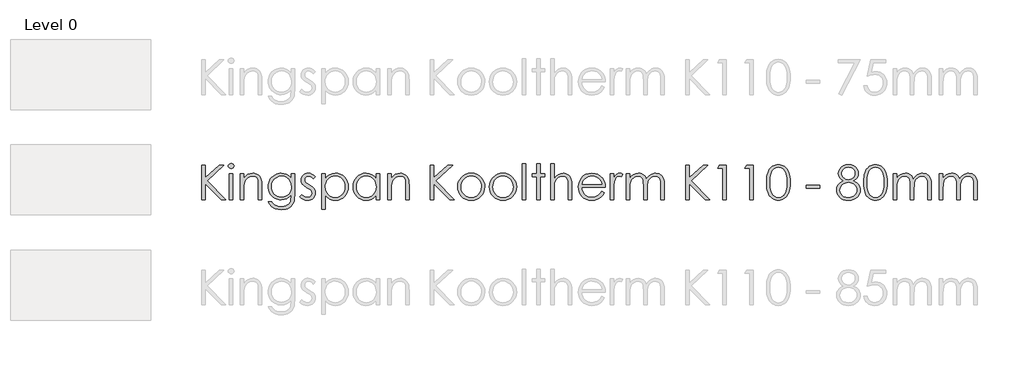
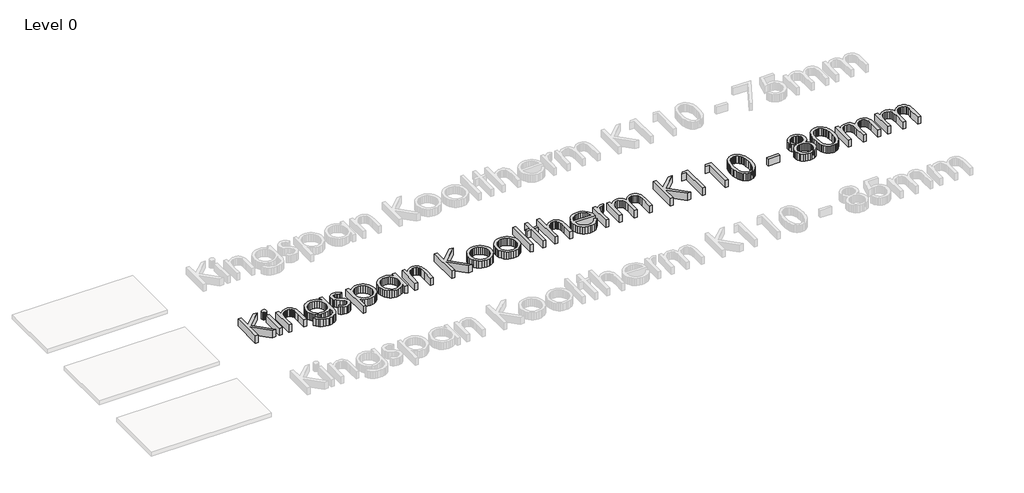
# One storey, part 6 of 9: 1 proxy.
"""IFC4 building model written with IfcOpenShell, lengths in millimetres."""

from ifc_helpers import new_model, si_unit, origin, origin_with_axes, place, context, project, spatial, polyline, outline, extrude, element, save

model = new_model("IFC4")

# Units and contexts
model_context = context("Model", 3, world=origin())
ifc_project = project(units=[si_unit("LENGTHUNIT", "METRE", prefix="MILLI")], contexts=[model_context])

# Site, building, storey
site = spatial("IfcSite", under=ifc_project)
building = spatial("IfcBuilding", under=site)
storey = spatial("IfcBuildingStorey", under=building, Name="Level 0", Elevation=0.0)

# Proxy
placement = place(None, origin())
element("IfcBuildingElementProxy", 1, Name="600mm KI_CenturyGothic", ObjectType="600mm KI_CenturyGothic", at=placement, inside=storey, context=model_context, shape_type="SweptSolid", body=[
    extrude(outline(polyline([(-3852.2663848, 500.8965983), (-3792.944575, 500.8965983), (-3792.944575, 281.683973), (-3555.1938841, 500.8965983), (-3471.6181051, 500.8965983), (-3760.9664119, 233.9484541), (-3441.9572002, -92.3214999), (-3520.8984627, -92.3214999), (-3792.944575, 185.9039675), (-3792.944575, -92.3214999), (-3852.2663848, -92.3214999), (-3852.2663848, 500.8965983)])), origin_with_axes(), (0.0, 0.0, 1.0), 150.0),
    extrude(outline(polyline([(-3348.1854852, 530.5575033), (-3329.145347, 527.2747208), (-3313.1176445, 517.4263735), (-3302.226531, 502.9821307), (-3298.5961598, 485.911662), (-3302.226531, 469.0729191), (-3313.1176445, 454.7059183), (-3329.145347, 444.857571), (-3348.1854852, 441.5747885), (-3366.9938975, 444.857571), (-3382.9443581, 454.7059183), (-3393.8354717, 469.0729191), (-3397.4658428, 485.911662), (-3393.8354717, 502.9821307), (-3382.9443581, 517.4263735), (-3366.9938975, 527.2747208), (-3348.1854852, 530.5575033)])), origin_with_axes(), (0.0, 0.0, 1.0), 150.0),
    extrude(outline(polyline([(-3377.6919062, 352.5920738), (-3318.3700964, 352.5920738), (-3318.3700964, -92.3214999), (-3377.6919062, -92.3214999), (-3377.6919062, 352.5920738)])), origin_with_axes(), (0.0, 0.0, 1.0), 150.0),
    extrude(outline(polyline([(-3189.8395084, 352.5920738), (-3130.5176986, 352.5920738), (-3130.5176986, 273.4963274), (-3096.9946967, 313.0055796), (-3060.0730495, 340.696815), (-3019.7141359, 357.0334853), (-2975.879335, 362.4790421), (-2953.4357238, 360.9004099), (-2932.2955704, 356.1645135), (-2912.4588747, 348.2713528), (-2893.9256368, 337.2209277), (-2877.212412, 323.4960006), (-2862.835756, 307.5793333), (-2841.0921499, 269.1707787), (-2833.6238199, 244.7912914), (-2828.2892984, 214.4448643), (-2824.0216812, 135.8511905), (-2824.0216812, -92.3214999), (-2883.343491, -92.3214999), (-2883.343491, 120.8662542), (-2883.343491, 223.907002), (-2884.7290183, 244.7043943), (-2889.8125035, 262.7596977), (-2898.2849788, 278.0729123), (-2910.1464442, 290.644038), (-2924.7403432, 300.4441091), (-2941.4101193, 307.4441599), (-2980.977303, 313.0442006), (-3005.3471351, 310.8862539), (-3028.4038541, 304.4124138), (-3050.1474602, 293.6226803), (-3070.5779533, 278.5170534), (-3088.6622225, 260.2348518), (-3103.3671568, 239.915394), (-3114.6927562, 217.55868), (-3122.6390208, 193.1647099), (-3128.5480292, 146.0857475), (-3130.5176986, 71.5858965), (-3130.5176986, -92.3214999), (-3189.8395084, -92.3214999), (-3189.8395084, 352.5920738)])), origin_with_axes(), (0.0, 0.0, 1.0), 150.0),
    extrude(outline(polyline([(-2319.7862977, 352.5920738), (-2260.4644879, 352.5920738), (-2260.4644879, 1.604699), (-2264.5196897, -78.6496765), (-2269.588692, -109.4499001), (-2276.6852953, -134.0321474), (-2289.9371156, -162.6454585), (-2307.2924139, -187.7732271), (-2328.7511904, -209.4154531), (-2354.3134448, -227.5721366), (-2383.3226209, -241.9343098), (-2415.122162, -252.1930049), (-2449.7120682, -258.348222), (-2487.0923395, -260.3999611), (-2541.0458345, -256.3833802), (-2589.206184, -244.3336376), (-2630.260275, -225.5059147), (-2662.8949946, -201.1553932), (-2690.2000204, -167.8061856), (-2715.2650299, -121.9824048), (-2655.94322, -121.9824048), (-2642.4355358, -143.151524), (-2627.0933555, -161.3951046), (-2609.9166791, -176.7131468), (-2590.9055067, -189.1056506), (-2569.7894914, -198.6691682), (-2546.2982864, -205.5002523), (-2492.1903075, -210.9651195), (-2438.5071593, -205.6354257), (-2415.083541, -198.9733084), (-2393.93856, -189.6463441), (-2359.6624492, -165.6047903), (-2336.8567664, -136.1176798), (-2329.3884364, -117.4782342), (-2324.0539149, -93.7697863), (-2319.7862977, -31.1458835), (-2319.7862977, -8.4367532), (-2354.757586, -44.2190818), (-2396.6420279, -70.6165148), (-2443.392712, -86.8952536), (-2492.9627269, -92.3214999), (-2522.4063889, -90.4242447), (-2550.9521133, -84.7324793), (-2578.5999001, -75.2462036), (-2605.3497494, -61.9654175), (-2630.1540674, -45.4742634), (-2651.9652601, -26.3568832), (-2670.7833277, -4.6132772), (-2686.6082702, 19.7565549), (-2699.1456025, 46.0719183), (-2708.1008399, 73.6521184), (-2713.4739824, 102.4971553), (-2715.2650299, 132.607029), (-2713.3967404, 162.8955247), (-2707.7918722, 192.1219437), (-2698.4504251, 220.286286), (-2685.3723991, 247.3885517), (-2668.9971079, 272.5742517), (-2649.7638648, 294.9888971), (-2627.67267, 314.632488), (-2602.7235235, 331.5050242), (-2575.9833294, 345.056157), (-2548.5189922, 354.7355376), (-2520.3305117, 360.543166), (-2491.4178881, 362.4790421), (-2444.5320306, 357.5355579), (-2400.8903346, 342.7051055), (-2359.6045177, 316.1338782), (-2319.7862977, 275.9680694), (-2319.7862977, 352.5920738)]), holes=[polyline([(-2484.1571458, 313.0442006), (-2529.0154023, 307.0193293), (-2570.5908765, 288.9447153), (-2606.2187212, 260.2300242), (-2633.2340897, 222.2849212), (-2650.2659375, 178.0059792), (-2655.94322, 130.2897708), (-2653.0080263, 94.3770964), (-2644.2024452, 61.7182387), (-2629.5264766, 32.3131977), (-2608.9801206, 6.1619734), (-2583.7606272, -15.296803), (-2555.0652466, -30.6245004), (-2522.8939786, -39.8211189), (-2487.2468234, -42.8866584), (-2451.3244937, -39.845257), (-2419.1001219, -30.7210528), (-2390.573708, -15.5140459), (-2365.7452519, 5.7757637), (-2345.6382095, 32.0187128), (-2331.2760363, 62.0851379), (-2322.6587323, 95.975039), (-2319.7862977, 133.6884162), (-2325.0773706, 182.3894593), (-2340.9505892, 225.6063246), (-2366.4983608, 261.8327944), (-2400.8130926, 289.5626508), (-2440.9982119, 307.1738131), (-2484.1571458, 313.0442006)])]), origin_with_axes(), (0.0, 0.0, 1.0), 150.0),
    extrude(outline(polyline([(-1904.5336289, 301.3034257), (-1940.9918246, 263.609359), (-1962.9575012, 285.2371022), (-1984.6721416, 300.6854902), (-2006.1357456, 309.954523), (-2027.3483133, 313.0442006), (-2052.181597, 308.3710632), (-2073.2300256, 294.3516511), (-2087.5970264, 274.1142629), (-2092.3860267, 250.787197), (-2088.4466878, 229.2366958), (-2076.628671, 208.7675817), (-2052.0657341, 186.599145), (-2010.2006027, 160.877579), (-1958.3326401, 128.0111336), (-1939.8428507, 112.1861912), (-1926.315856, 96.7667689), (-1909.9791857, 64.0934284), (-1904.5336289, 27.5579908), (-1906.9474396, 1.4115941), (-1914.1888714, -22.6492701), (-1926.2579245, -44.624602), (-1943.1545989, -64.5144015), (-1963.6719892, -81.0055557), (-1986.6031901, -92.7849515), (-2011.9482016, -99.852589), (-2039.7070237, -102.2084682), (-2077.4397114, -98.3270607), (-2113.3958344, -86.6828383), (-2145.4512394, -68.2027042), (-2171.4817731, -43.8135617), (-2135.7959969, -3.3387852), (-2114.0041146, -24.9665283), (-2091.5749863, -40.4149163), (-2068.5086121, -49.6839491), (-2044.8049918, -52.7736267), (-2013.637869, -47.1349651), (-1987.4914724, -30.2189802), (-1969.7644472, -5.6560434), (-1963.8554388, 22.9234744), (-1967.7561567, 46.7139919), (-1979.4583106, 67.7237995), (-2005.0253927, 89.4287846), (-2050.2119275, 116.2317378), (-2099.762632, 146.8967879), (-2117.441381, 162.0555186), (-2130.3890611, 177.0983864), (-2146.3781427, 209.2310334), (-2151.7078365, 245.689229), (-2149.5305794, 269.7356104), (-2142.9988078, 291.6674937), (-2132.1125219, 311.4848789), (-2116.8717217, 329.187766), (-2098.309518, 343.7526993), (-2077.4590218, 354.1562231), (-2054.3202332, 360.3983373), (-2028.8931521, 362.4790421), (-1997.9481, 358.6555661), (-1966.9064954, 347.185138), (-1935.7683384, 328.0677579), (-1904.5336289, 301.3034257)])), origin_with_axes(), (0.0, 0.0, 1.0), 150.0),
    extrude(outline(polyline([(-1795.7769776, 352.5920738), (-1736.4551678, 352.5920738), (-1736.4551678, 271.4880369), (-1700.9238754, 311.7310876), (-1660.4490989, 340.0788795), (-1614.9922173, 356.8790014), (-1564.5146096, 362.4790421), (-1520.0618732, 358.2403906), (-1478.9305402, 345.5244363), (-1441.1206107, 324.331179), (-1406.6320845, 294.6606189), (-1377.9077381, 259.0231189), (-1357.3903478, 219.929042), (-1345.0799137, 177.3783884), (-1340.9764356, 131.371158), (-1345.0412927, 84.4708176), (-1357.235864, 41.2491246), (-1377.5601494, 1.706079), (-1406.014149, -34.1583192), (-1440.2130179, -63.9302594), (-1477.7719111, -85.1959309), (-1518.6908288, -97.9553339), (-1562.9697708, -102.2084682), (-1612.6170277, -96.743601), (-1658.0545988, -80.3489992), (-1699.3211052, -53.1019049), (-1736.4551678, -15.07956), (-1736.4551678, -250.5129928), (-1795.7769776, -250.5129928), (-1795.7769776, 352.5920738)]), holes=[polyline([(-1568.5311905, 313.0442006), (-1602.5852307, 309.7469353), (-1633.8392507, 299.8551393), (-1662.2932503, 283.3688128), (-1687.9472295, 260.2879556), (-1709.1694525, 232.3022353), (-1724.3281832, 201.1013192), (-1733.4234216, 166.6852074), (-1736.4551678, 129.0538998), (-1731.048232, 80.1983728), (-1714.8274246, 36.5180558), (-1688.5265441, -0.3263495), (-1652.8793888, -28.6741414), (-1611.4390881, -46.7487554), (-1567.7587711, -52.7736267), (-1525.0632888, -46.7101344), (-1485.0326535, -28.5196576), (-1450.2544701, 0.5812433), (-1423.3163435, 39.3760076), (-1406.05277, 84.0411593), (-1400.2982454, 130.7532225), (-1405.9948385, 177.6970114), (-1423.0846177, 222.1304373), (-1449.8103289, 260.4810605), (-1484.414718, 289.1764411), (-1524.7157001, 307.0772607), (-1568.5311905, 313.0442006)])]), origin_with_axes(), (0.0, 0.0, 1.0), 150.0),
    extrude(outline(polyline([(-807.0801472, 352.5920738), (-807.0801472, -92.3214999), (-866.401957, -92.3214999), (-866.401957, -16.4699149), (-903.4780882, -54.3184655), (-944.8797679, -81.0441767), (-990.4525125, -96.9173953), (-1040.0418379, -102.2084682), (-1084.3159523, -97.9553339), (-1125.2203871, -85.1959309), (-1162.7551422, -63.9302594), (-1196.9202178, -34.1583192), (-1225.340424, 1.706079), (-1245.6405713, 41.2491246), (-1257.8206597, 84.4708176), (-1261.8806892, 131.371158), (-1257.7820388, 177.3783884), (-1245.4860875, 219.929042), (-1224.9928353, 259.0231189), (-1196.3022822, 294.6606189), (-1161.8475494, 324.331179), (-1124.061758, 345.5244363), (-1082.9449079, 358.2403906), (-1038.4969991, 362.4790421), (-987.7490446, 356.8790014), (-942.0990581, 340.0788795), (-921.2051134, 327.3918909), (-901.6242816, 311.7310876), (-866.401957, 271.4880369), (-866.401957, 352.5920738), (-807.0801472, 352.5920738)]), holes=[polyline([(-1034.3259343, 313.0442006), (-1078.1414247, 307.0772607), (-1118.4424068, 289.1764411), (-1153.0467959, 260.4810605), (-1179.7725071, 222.1304373), (-1196.8622863, 177.6970114), (-1202.5588794, 130.7532225), (-1196.8043548, 84.0411593), (-1179.5407813, 39.3760076), (-1152.6026548, 0.5812433), (-1117.8244713, -28.5196576), (-1077.6779731, -46.7101344), (-1034.6349021, -52.7736267), (-991.0125165, -46.7487554), (-949.7460102, -28.6741414), (-914.2726493, -0.3263495), (-888.0297002, 36.5180558), (-871.8088928, 80.1983728), (-866.401957, 129.0538998), (-869.4337032, 166.6852074), (-878.5289416, 201.1013192), (-893.6876723, 232.3022353), (-914.9098953, 260.2879556), (-940.5638746, 283.3688128), (-969.0178742, 299.8551393), (-1000.2718941, 309.7469353), (-1034.3259343, 313.0442006)])]), origin_with_axes(), (0.0, 0.0, 1.0), 150.0),
    extrude(outline(polyline([(-668.662591, 352.5920738), (-609.3407811, 352.5920738), (-609.3407811, 273.4963274), (-575.8177792, 313.0055796), (-538.896132, 340.696815), (-498.5372184, 357.0334853), (-454.7024175, 362.4790421), (-432.2588064, 360.9004099), (-411.1186529, 356.1645135), (-391.2819572, 348.2713528), (-372.7487193, 337.2209277), (-356.0354946, 323.4960006), (-341.6588385, 307.5793333), (-319.9152324, 269.1707787), (-312.4469024, 244.7912914), (-307.1123809, 214.4448643), (-302.8447637, 135.8511905), (-302.8447637, -92.3214999), (-362.1665735, -92.3214999), (-362.1665735, 120.8662542), (-362.1665735, 223.907002), (-363.5521008, 244.7043943), (-368.635586, 262.7596977), (-377.1080613, 278.0729123), (-388.9695267, 290.644038), (-403.5634257, 300.4441091), (-420.2332018, 307.4441599), (-459.8003855, 313.0442006), (-484.1702176, 310.8862539), (-507.2269366, 304.4124138), (-528.9705427, 293.6226803), (-549.4010358, 278.5170534), (-567.485305, 260.2348518), (-582.1902393, 239.915394), (-593.5158387, 217.55868), (-601.4621033, 193.1647099), (-607.3711117, 146.0857475), (-609.3407811, 71.5858965), (-609.3407811, -92.3214999), (-668.662591, -92.3214999), (-668.662591, 352.5920738)])), origin_with_axes(), (0.0, 0.0, 1.0), 150.0),
    extrude(outline(polyline([(62.9730635, 500.8965983), (122.2948734, 500.8965983), (122.2948734, 281.683973), (360.0455643, 500.8965983), (443.6213432, 500.8965983), (154.2730365, 233.9484541), (473.2822481, -92.3214999), (394.3409856, -92.3214999), (122.2948734, 185.9039675), (122.2948734, -92.3214999), (62.9730635, -92.3214999), (62.9730635, 500.8965983)])), origin_with_axes(), (0.0, 0.0, 1.0), 150.0),
    extrude(outline(polyline([(760.1588128, 362.4790421), (809.4681362, 357.8541809), (854.3553585, 343.9795975), (894.8204798, 320.8552917), (930.8635, 288.4812637), (957.7630055, 253.2492839), (976.9769381, 214.908316), (988.5052976, 173.45836), (992.3480841, 128.8994159), (988.283227, 84.0846079), (976.0886558, 42.1760279), (955.7643703, 3.1736759), (927.3103707, -32.9224481), (892.4742558, -63.2350819), (853.0036246, -84.8869632), (808.8984769, -97.8780919), (760.1588128, -102.2084682), (711.2839754, -97.8780919), (667.0822753, -84.8869632), (627.5537126, -63.2350819), (592.6982872, -32.9224481), (564.2442876, 3.1736759), (543.9200022, 42.1760279), (531.7254309, 84.0846079), (527.6605738, 128.8994159), (531.5033603, 173.2652551), (543.0317198, 214.5993482), (562.2456524, 252.9016951), (589.145158, 288.1722959), (625.2074886, 320.6814974), (665.7305413, 343.9023555), (710.7143161, 357.8348705), (760.1588128, 362.4790421)]), holes=[polyline([(760.004329, 313.0442006), (725.7282181, 309.6696933), (693.9624704, 299.5461716), (664.7070856, 282.6736353), (637.962064, 259.0520846), (615.6584538, 230.6415336), (599.7273037, 199.4019965), (590.1686137, 165.3334734), (586.9823836, 128.4359643), (592.7948396, 80.7004454), (610.2322075, 36.3635719), (637.5758543, -1.4270471), (673.1071466, -29.5238028), (714.6439998, -46.9611707), (760.004329, -52.7736267), (805.3646581, -46.9611707), (846.9015113, -29.5238028), (882.4328037, -1.4270471), (909.7764504, 36.3635719), (927.2138183, 80.7004454), (933.0262743, 128.4359643), (929.8255614, 165.3334734), (920.2234227, 199.4019965), (904.2198583, 230.6415336), (881.8148681, 259.0520846), (854.9974321, 282.6736353), (825.7565303, 299.5461716), (794.0921625, 309.6696933), (760.004329, 313.0442006)])]), origin_with_axes(), (0.0, 0.0, 1.0), 150.0),
    extrude(outline(polyline([(1303.9420695, 362.4790421), (1353.2513929, 357.8541809), (1398.1386152, 343.9795975), (1438.6037365, 320.8552917), (1474.6467567, 288.4812637), (1501.5462622, 253.2492839), (1520.7601948, 214.908316), (1532.2885543, 173.45836), (1536.1313408, 128.8994159), (1532.0664837, 84.0846079), (1519.8719125, 42.1760279), (1499.547627, 3.1736759), (1471.0936274, -32.9224481), (1436.2575126, -63.2350819), (1396.7868813, -84.8869632), (1352.6817336, -97.8780919), (1303.9420695, -102.2084682), (1255.0672321, -97.8780919), (1210.865532, -84.8869632), (1171.3369693, -63.2350819), (1136.4815439, -32.9224481), (1108.0275443, 3.1736759), (1087.7032589, 42.1760279), (1075.5086876, 84.0846079), (1071.4438305, 128.8994159), (1075.286617, 173.2652551), (1086.8149766, 214.5993482), (1106.0289091, 252.9016951), (1132.9284147, 288.1722959), (1168.9907453, 320.6814974), (1209.5137981, 343.9023555), (1254.4975728, 357.8348705), (1303.9420695, 362.4790421)]), holes=[polyline([(1303.7875857, 313.0442006), (1269.5114748, 309.6696933), (1237.7457271, 299.5461716), (1208.4903423, 282.6736353), (1181.7453207, 259.0520846), (1159.4417105, 230.6415336), (1143.5105604, 199.4019965), (1133.9518704, 165.3334734), (1130.7656404, 128.4359643), (1136.5780963, 80.7004454), (1154.0154643, 36.3635719), (1181.359111, -1.4270471), (1216.8904033, -29.5238028), (1258.4272565, -46.9611707), (1303.7875857, -52.7736267), (1349.1479149, -46.9611707), (1390.684768, -29.5238028), (1426.2160604, -1.4270471), (1453.5597071, 36.3635719), (1470.997075, 80.7004454), (1476.809531, 128.4359643), (1473.6088181, 165.3334734), (1464.0066795, 199.4019965), (1448.003115, 230.6415336), (1425.5981249, 259.0520846), (1398.7806889, 282.6736353), (1369.539787, 299.5461716), (1337.8754193, 309.6696933), (1303.7875857, 313.0442006)])]), origin_with_axes(), (0.0, 0.0, 1.0), 150.0),
    extrude(outline(polyline([(1635.0010238, 520.6705349), (1694.3228337, 520.6705349), (1694.3228337, -92.3214999), (1635.0010238, -92.3214999), (1635.0010238, 520.6705349)])), origin_with_axes(), (0.0, 0.0, 1.0), 150.0),
    extrude(outline(polyline([(1882.1752314, 520.6705349), (1941.4970413, 520.6705349), (1941.4970413, 352.5920738), (2020.5927877, 352.5920738), (2020.5927877, 303.1572323), (1941.4970413, 303.1572323), (1941.4970413, -92.3214999), (1882.1752314, -92.3214999), (1882.1752314, 303.1572323), (1803.079485, 303.1572323), (1803.079485, 352.5920738), (1882.1752314, 352.5920738), (1882.1752314, 520.6705349)])), origin_with_axes(), (0.0, 0.0, 1.0), 150.0),
    extrude(outline(polyline([(2119.4624707, 520.6705349), (2178.7842806, 520.6705349), (2178.7842806, 271.9514886), (2212.5583188, 311.6538456), (2249.6151394, 339.9243956), (2289.9161216, 356.8403805), (2333.4226442, 362.4790421), (2355.8662553, 360.9004099), (2377.0064088, 356.1645135), (2396.8431044, 348.2713528), (2415.3763424, 337.2209277), (2432.0895671, 323.5104834), (2446.4662232, 307.6372648), (2468.2098293, 269.4025045), (2475.6781593, 245.0954316), (2481.0126808, 214.7345216), (2485.280298, 135.8511905), (2485.280298, -92.3214999), (2425.9584882, -92.3214999), (2425.9584882, 120.8662542), (2424.5681332, 185.247411), (2420.3970685, 223.907002), (2406.879729, 262.7596977), (2397.1665551, 278.0729123), (2385.4837117, 290.644038), (2371.840854, 300.4441091), (2356.2476374, 307.4441599), (2319.2101273, 313.0442006), (2296.3416854, 310.8862539), (2274.6994594, 304.4124138), (2254.2834492, 293.6226803), (2235.0936547, 278.5170534), (2218.1052556, 260.2348518), (2204.2934312, 239.915394), (2193.6581816, 217.55868), (2186.1995068, 193.1647099), (2180.6380871, 146.3174733), (2178.7842806, 71.5858965), (2178.7842806, -92.3214999), (2119.4624707, -92.3214999), (2119.4624707, 520.6705349)])), origin_with_axes(), (0.0, 0.0, 1.0), 150.0),
    extrude(outline(polyline([(2991.0605203, 55.9830247), (3038.950523, 30.8021523), (3013.3255094, -11.0822896), (2984.0315038, -44.0452875), (2950.952643, -69.1296074), (2913.9730643, -87.3780157), (2872.4941426, -98.5008551), (2825.9172528, -102.2084682), (2774.4258447, -97.7767119), (2728.8627554, -84.481443), (2689.227985, -62.3226615), (2655.5215335, -31.3003674), (2628.6220279, 5.3026569), (2609.4080954, 44.2036288), (2597.8797358, 85.4025485), (2594.0369493, 128.8994159), (2597.3197318, 169.7797126), (2607.1680791, 208.381372), (2623.5819913, 244.7043943), (2646.5614684, 278.7487793), (2682.7493173, 315.3807692), (2724.5758277, 341.5464764), (2772.0409998, 357.2459007), (2825.1448334, 362.4790421), (2879.7935059, 357.1107273), (2928.6490329, 341.0057828), (2971.7114143, 314.1642087), (3008.9806503, 276.5860049), (3030.4539096, 244.414737), (3045.9022976, 208.458614), (3055.3258143, 168.7176359), (3058.7244596, 125.1918028), (2653.3587591, 125.1918028), (2657.095338, 87.9370497), (2666.6057518, 54.1871496), (2681.8900007, 23.9421025), (2702.9480845, -2.7980916), (2728.3124066, -24.6623882), (2756.5153699, -40.2797429), (2787.5569744, -49.6501557), (2821.4372203, -52.7736267), (2854.9602222, -49.761191), (2887.5563208, -40.7238841), (2917.2944677, -26.6851615), (2942.2436143, -8.668479), (2965.725164, 17.4972281), (2991.0605203, 55.9830247)]), holes=[polyline([(2999.4026498, 174.6266443), (2984.9777175, 217.1483322), (2965.1844704, 250.1692615), (2939.0766947, 275.6977226), (2905.7081767, 295.742006), (2867.7630738, 308.7186519), (2827.9255433, 313.0442006), (2795.503239, 310.3310774), (2765.4368139, 302.191708), (2737.726268, 288.6260923), (2712.3716012, 269.6342304), (2695.8321708, 251.820308), (2681.4362043, 230.0477362), (2669.1837016, 204.316515), (2659.0746627, 174.6266443), (2999.4026498, 174.6266443)])]), origin_with_axes(), (0.0, 0.0, 1.0), 150.0),
    extrude(outline(polyline([(3137.820206, 352.5920738), (3197.1420159, 352.5920738), (3197.1420159, 288.1722959), (3222.6897875, 321.2125357), (3249.589293, 344.3271862), (3277.7632906, 357.9410781), (3307.1345382, 362.4790421), (3330.4616041, 358.694187), (3355.3335087, 347.3396219), (3325.8270877, 305.3200066), (3297.2475699, 313.0442006), (3270.8308265, 307.0965712), (3245.3409863, 289.2536831), (3223.2884125, 258.8976007), (3207.183468, 215.4103886), (3199.6523789, 157.2858288), (3197.1420159, 59.8451217), (3197.1420159, -92.3214999), (3137.820206, -92.3214999), (3137.820206, 352.5920738)])), origin_with_axes(), (0.0, 0.0, 1.0), 150.0),
    extrude(outline(polyline([(3414.6553185, 352.5920738), (3473.9771284, 352.5920738), (3473.9771284, 276.4315211), (3503.5607913, 312.9283377), (3533.9168737, 338.0705891), (3577.3268439, 356.3769288), (3622.8995884, 362.4790421), (3653.7384329, 359.331433), (3682.9165757, 349.8886059), (3708.6767627, 335.2126373), (3729.2617397, 316.365604), (3746.0425511, 290.9336953), (3760.3902414, 256.5031006), (3775.16759, 280.9018983), (3791.6925376, 302.191708), (3809.965084, 320.3725296), (3829.9852293, 335.4443631), (3851.2798666, 347.2720352), (3873.375889, 355.7203723), (3896.2732965, 360.7893747), (3919.9720892, 362.4790421), (3962.3006723, 356.6665861), (3981.4952943, 349.4010161), (3999.3768034, 339.2292182), (4015.4914031, 326.46016), (4029.385297, 311.4028093), (4050.5109676, 274.4232306), (4057.8103309, 251.0478886), (4063.0241619, 222.4780261), (4067.1952266, 149.7547397), (4067.1952266, -92.3214999), (4007.8734168, -92.3214999), (4007.8734168, 153.3078689), (4005.4209852, 214.4255538), (3998.0636904, 252.8727294), (3984.7587663, 277.3391139), (3964.4634466, 296.5144254), (3938.3942919, 308.9117568), (3907.7678627, 313.0442006), (3888.1194443, 311.4945341), (3869.3399976, 306.8455349), (3834.3880198, 288.2495379), (3805.6540182, 259.3031209), (3785.8800816, 222.0531954), (3779.1889985, 197.8957787), (3774.4096535, 166.8252084), (3770.5861775, 83.9446069), (3770.5861775, -92.3214999), (3711.2643677, -92.3214999), (3711.2643677, 138.0139648), (3708.850557, 206.469634), (3701.6091252, 248.7016647), (3688.3621325, 274.9446137), (3667.9316394, 295.4330383), (3641.6114484, 308.64141), (3610.6953619, 313.0442006), (3573.7544042, 307.0000188), (3539.2465676, 288.8674734), (3510.2808401, 260.500371), (3489.9662099, 223.7525181), (3477.9743988, 171.9231764), (3473.9771284, 98.3116077), (3473.9771284, -92.3214999), (3414.6553185, -92.3214999), (3414.6553185, 352.5920738)])), origin_with_axes(), (0.0, 0.0, 1.0), 150.0),
    extrude(outline(polyline([(4433.0130538, 500.8965983), (4492.3348637, 500.8965983), (4492.3348637, 281.683973), (4730.0855546, 500.8965983), (4813.6613335, 500.8965983), (4524.3130268, 233.9484541), (4843.3222385, -92.3214999), (4764.3809759, -92.3214999), (4492.3348637, 185.9039675), (4492.3348637, -92.3214999), (4433.0130538, -92.3214999), (4433.0130538, 500.8965983)])), origin_with_axes(), (0.0, 0.0, 1.0), 150.0),
    extrude(outline(polyline([(5010.6282802, 500.8965983), (5125.1008351, 500.8965983), (5125.1008351, -92.3214999), (5065.7790253, -92.3214999), (5065.7790253, 451.4617568), (4976.7963106, 451.4617568), (5010.6282802, 500.8965983)])), origin_with_axes(), (0.0, 0.0, 1.0), 150.0),
    extrude(outline(polyline([(5475.3157905, 500.8965983), (5589.7883454, 500.8965983), (5589.7883454, -92.3214999), (5530.4665356, -92.3214999), (5530.4665356, 451.4617568), (5441.4838208, 451.4617568), (5475.3157905, 500.8965983)])), origin_with_axes(), (0.0, 0.0, 1.0), 150.0),
    extrude(outline(polyline([(5817.1886164, 204.1330653), (5818.7672485, 258.5644948), (5823.503145, 306.4593252), (5831.3963057, 347.8175564), (5842.4467307, 382.6391884), (5856.374418, 412.2807828), (5872.8993655, 438.0989012), (5892.0215733, 460.0935436), (5913.7410412, 478.26471), (5937.4350063, 492.4917098), (5962.4807053, 502.6538525), (5988.8781382, 508.7511381), (6016.6273051, 510.7835666), (6044.8302684, 508.7366552), (6071.6621873, 502.595921), (6097.1230617, 492.361364), (6121.2128917, 478.0329841), (6143.3958113, 459.6156091), (6163.1359546, 437.1140665), (6180.4333215, 410.5283563), (6195.2879121, 379.8584786), (6207.2169642, 344.3416691), (6215.7377157, 303.2151637), (6220.8501666, 256.4789625), (6222.5543169, 204.1330653), (6220.8743047, 151.9464797), (6215.8342681, 105.3792452), (6207.4342071, 64.4313618), (6195.6741218, 29.1028296), (6180.9643599, -1.4222195), (6163.7152692, -27.9596535), (6143.9268497, -50.5094723), (6121.5991014, -69.071676), (6097.3403047, -83.5690226), (6071.7587397, -93.9242701), (6044.8544066, -100.1374187), (6016.6273051, -102.2084682), (5988.9022764, -100.2001778), (5962.5772577, -94.1753064), (5937.6522492, -84.1338543), (5914.1272509, -70.0758212), (5892.5526116, -52.0398282), (5873.4786801, -30.0644964), (5856.9054564, -4.1498255), (5842.8329404, 25.7041842), (5831.6135487, 60.7237487), (5823.5996974, 102.1350837), (5818.7913866, 149.9381893), (5817.1886164, 204.1330653)]), holes=[polyline([(5876.5104262, 204.2875492), (5880.8939063, 115.961391), (5886.3732564, 80.9804475), (5894.0443466, 52.1209277), (5903.8589006, 27.8814414), (5915.7686422, 6.7605985), (5929.7735714, -11.2416011), (5945.8736882, -26.1251574), (5981.1732547, -46.1115094), (5999.5761469, -51.1080973), (6018.4811117, -52.7736267), (6037.4729737, -51.1418907), (6055.8275896, -46.2466828), (6090.6250835, -26.665851), (6106.3824393, -11.9898824), (6120.1315046, 5.9302476), (6131.8722794, 27.0945392), (6141.6047639, 51.5029922), (6151.0669015, 84.8618549), (6157.8255712, 121.4455687), (6163.232507, 204.2875492), (6158.4048858, 285.8936587), (6152.3703592, 320.5849449), (6143.9220221, 351.2017189), (6133.3398763, 377.864671), (6120.903924, 400.6944918), (6106.6141651, 419.6911814), (6090.4705997, 434.8547397), (6055.402759, 454.7252288), (6037.1736612, 459.692851), (6018.4811117, 461.3487251), (5999.4651116, 459.692851), (5981.0380814, 454.7252288), (5945.9509302, 434.8547397), (5930.0052972, 420.0435978), (5916.0776099, 402.1041572), (5904.1678683, 381.0364181), (5894.2760724, 356.8403805), (5886.5036022, 327.9856883), (5880.9518378, 292.9419857), (5876.5104262, 204.2875492)])]), origin_with_axes(), (0.0, 0.0, 1.0), 150.0),
    extrude(outline(polyline([(6499.3894294, 154.8527077), (6726.7897004, 154.8527077), (6726.7897004, 105.4178662), (6499.3894294, 105.4178662), (6499.3894294, 154.8527077)])), origin_with_axes(), (0.0, 0.0, 1.0), 150.0),
    extrude(outline(polyline([(7304.095959, 231.7856798), (7356.1956474, 200.3868313), (7376.0178602, 183.1522234), (7391.6883188, 164.8941599), (7403.5835775, 145.4774673), (7412.0801909, 124.7669721), (7417.1781589, 102.7626745), (7418.8774816, 79.4645744), (7416.0581508, 46.7815786), (7407.6001584, 16.0875627), (7393.5035044, -12.6174732), (7373.7681887, -39.3335291), (7343.0741729, -66.841315), (7306.4518381, -86.4897334), (7263.9011845, -98.2787845), (7215.422212, -102.2084682), (7168.7584251, -98.756719), (7128.100199, -88.4014714), (7093.4475337, -71.1427255), (7064.8004292, -46.9804812), (7042.3616457, -18.6664826), (7026.3339432, 11.0475261), (7016.7173217, 42.161545), (7013.5117812, 74.6755741), (7015.2255867, 98.4033325), (7020.3670033, 120.9241856), (7028.936031, 142.2381334), (7040.9326698, 162.3451759), (7056.8300266, 181.3128997), (7077.1012082, 199.2088917), (7101.7462146, 216.0331517), (7130.7650459, 231.7856798), (7092.3951123, 256.7348264), (7065.0321551, 287.0909088), (7048.6375533, 321.3477091), (7043.1726861, 357.9990096), (7048.9658316, 395.7123867), (7066.345268, 432.5374816), (7093.9592615, 465.0563382), (7130.4560781, 489.8510009), (7173.055008, 505.5504252), (7218.9753412, 510.7835666), (7263.7177349, 505.5118042), (7304.9456203, 489.6965171), (7340.1486344, 464.8246124), (7366.8164141, 432.3829977), (7383.6165361, 395.2489351), (7389.2165767, 356.2996869), (7383.9061933, 318.7601041), (7367.9750432, 285.54607), (7341.3845054, 256.5803425), (7304.095959, 231.7856798)]), holes=[polyline([(7219.284309, 204.2875492), (7189.4158164, 201.7771862), (7162.067342, 194.246097), (7137.238886, 181.6942818), (7114.9304482, 164.1217405), (7096.5130732, 143.2181405), (7083.3578053, 120.6731493), (7075.4646446, 96.4867669), (7072.833591, 70.6589932), (7077.332934, 38.5456567), (7090.830963, 8.3247478), (7112.4007747, -17.6092335), (7141.1154658, -36.8617871), (7175.9902017, -48.7956668), (7216.0401475, -52.7736267), (7247.2603741, -50.3549884), (7275.110921, -43.0990737), (7299.5917884, -31.0058825), (7320.702976, -14.0754148), (7337.7010304, 6.0895591), (7349.8424979, 27.886269), (7357.1273783, 51.3147149), (7359.5556718, 76.3748968), (7356.9873773, 100.7061079), (7349.2824938, 123.646964), (7336.4410213, 145.1974652), (7318.4629598, 165.3576115), (7296.8545271, 182.3894593), (7273.1219411, 194.5550648), (7247.2652017, 201.8544281), (7219.284309, 204.2875492)]), polyline([(7216.0401475, 461.3487251), (7192.5344597, 459.4900909), (7171.14327, 453.9141884), (7151.8665783, 444.6210175), (7134.7043848, 431.6105783), (7120.6125584, 416.0221893), (7110.5469681, 398.9951692), (7104.507614, 380.5295179), (7102.4944959, 360.6252355), (7104.6620978, 340.7161255), (7111.1649037, 321.7725398), (7122.0029133, 303.7944783), (7137.1761269, 286.781941), (7155.236258, 272.3183878), (7174.7350202, 261.9872783), (7195.6724135, 255.7886126), (7218.048438, 253.7223907), (7246.7631291, 257.4686248), (7273.8943605, 268.7073271), (7297.3565997, 286.4536628), (7315.0643144, 309.7227972), (7326.1871538, 335.7726414), (7329.8947669, 361.8611066), (7328.0699261, 380.0322729), (7322.5954036, 397.4696408), (7313.4711994, 414.1732103), (7300.6973136, 430.1429814), (7284.4571958, 443.7954943), (7264.9342955, 453.5472892), (7242.1286127, 459.3983661), (7216.0401475, 461.3487251)])]), origin_with_axes(), (0.0, 0.0, 1.0), 150.0),
    extrude(outline(polyline([(7478.1992914, 204.1330653), (7479.7779236, 258.5644948), (7484.51382, 306.4593252), (7492.4069808, 347.8175564), (7503.4574058, 382.6391884), (7517.3850931, 412.2807828), (7533.9100406, 438.0989012), (7553.0322483, 460.0935436), (7574.7517163, 478.26471), (7598.4456813, 492.4917098), (7623.4913804, 502.6538525), (7649.8888133, 508.7511381), (7677.6379802, 510.7835666), (7705.8409435, 508.7366552), (7732.6728624, 502.595921), (7758.1337368, 492.361364), (7782.2235668, 478.0329841), (7804.4064864, 459.6156091), (7824.1466297, 437.1140665), (7841.4439966, 410.5283563), (7856.2985871, 379.8584786), (7868.2276392, 344.3416691), (7876.7483907, 303.2151637), (7881.8608416, 256.4789625), (7883.5649919, 204.1330653), (7881.8849797, 151.9464797), (7876.8449431, 105.3792452), (7868.4448822, 64.4313618), (7856.6847968, 29.1028296), (7841.9750349, -1.4222195), (7824.7259442, -27.9596535), (7804.9375247, -50.5094723), (7782.6097765, -69.071676), (7758.3509797, -83.5690226), (7732.7694148, -93.9242701), (7705.8650816, -100.1374187), (7677.6379802, -102.2084682), (7649.9129514, -100.2001778), (7623.5879328, -94.1753064), (7598.6629243, -84.1338543), (7575.137926, -70.0758212), (7553.5632867, -52.0398282), (7534.4893551, -30.0644964), (7517.9161314, -4.1498255), (7503.8436155, 25.7041842), (7492.6242237, 60.7237487), (7484.6103725, 102.1350837), (7479.8020617, 149.9381893), (7478.1992914, 204.1330653)]), holes=[polyline([(7537.5211013, 204.2875492), (7541.9045814, 115.961391), (7547.3839315, 80.9804475), (7555.0550216, 52.1209277), (7564.8695756, 27.8814414), (7576.7793172, 6.7605985), (7590.7842464, -11.2416011), (7606.8843633, -26.1251574), (7642.1839298, -46.1115094), (7660.586822, -51.1080973), (7679.4917868, -52.7736267), (7698.4836487, -51.1418907), (7716.8382647, -46.2466828), (7751.6357586, -26.665851), (7767.3931143, -11.9898824), (7781.1421796, 5.9302476), (7792.8829545, 27.0945392), (7802.6154389, 51.5029922), (7812.0775766, 84.8618549), (7818.8362463, 121.4455687), (7824.2431821, 204.2875492), (7819.4155608, 285.8936587), (7813.3810343, 320.5849449), (7804.9326971, 351.2017189), (7794.3505514, 377.864671), (7781.914599, 400.6944918), (7767.6248402, 419.6911814), (7751.4812747, 434.8547397), (7716.413434, 454.7252288), (7698.1843362, 459.692851), (7679.4917868, 461.3487251), (7660.4757867, 459.692851), (7642.0487564, 454.7252288), (7606.9616052, 434.8547397), (7591.0159723, 420.0435978), (7577.088285, 402.1041572), (7565.1785434, 381.0364181), (7555.2867474, 356.8403805), (7547.5142772, 327.9856883), (7541.9625128, 292.9419857), (7537.5211013, 204.2875492)])]), origin_with_axes(), (0.0, 0.0, 1.0), 150.0),
    extrude(outline(polyline([(7982.4346749, 352.5920738), (8041.7564848, 352.5920738), (8041.7564848, 276.4315211), (8071.3401477, 312.9283377), (8101.6962301, 338.0705891), (8145.1062003, 356.3769288), (8190.6789448, 362.4790421), (8221.5177893, 359.331433), (8250.6959321, 349.8886059), (8276.4561191, 335.2126373), (8297.0410961, 316.365604), (8313.8219075, 290.9336953), (8328.1695978, 256.5031006), (8342.9469464, 280.9018983), (8359.471894, 302.191708), (8377.7444404, 320.3725296), (8397.7645856, 335.4443631), (8419.0592229, 347.2720352), (8441.1552454, 355.7203723), (8464.0526529, 360.7893747), (8487.7514456, 362.4790421), (8530.0800287, 356.6665861), (8549.2746507, 349.4010161), (8567.1561598, 339.2292182), (8583.2707595, 326.46016), (8597.1646534, 311.4028093), (8618.290324, 274.4232306), (8625.5896873, 251.0478886), (8630.8035182, 222.4780261), (8634.974583, 149.7547397), (8634.974583, -92.3214999), (8575.6527732, -92.3214999), (8575.6527732, 153.3078689), (8573.2003416, 214.4255538), (8565.8430468, 252.8727294), (8552.5381227, 277.3391139), (8532.242803, 296.5144254), (8506.1736483, 308.9117568), (8475.5472191, 313.0442006), (8455.8988006, 311.4945341), (8437.119354, 306.8455349), (8402.1673762, 288.2495379), (8373.4333746, 259.3031209), (8353.659438, 222.0531954), (8346.9683549, 197.8957787), (8342.1890099, 166.8252084), (8338.3655339, 83.9446069), (8338.3655339, -92.3214999), (8279.0437241, -92.3214999), (8279.0437241, 138.0139648), (8276.6299134, 206.469634), (8269.3884816, 248.7016647), (8256.1414889, 274.9446137), (8235.7109958, 295.4330383), (8209.3908048, 308.64141), (8178.4747183, 313.0442006), (8141.5337606, 307.0000188), (8107.025924, 288.8674734), (8078.0601965, 260.500371), (8057.7455663, 223.7525181), (8045.7537552, 171.9231764), (8041.7564848, 98.3116077), (8041.7564848, -92.3214999), (7982.4346749, -92.3214999), (7982.4346749, 352.5920738)])), origin_with_axes(), (0.0, 0.0, 1.0), 150.0),
    extrude(outline(polyline([(8773.3921393, 352.5920738), (8832.7139491, 352.5920738), (8832.7139491, 276.4315211), (8862.2976121, 312.9283377), (8892.6536944, 338.0705891), (8936.0636646, 356.3769288), (8981.6364092, 362.4790421), (9012.4752537, 359.331433), (9041.6533964, 349.8886059), (9067.4135834, 335.2126373), (9087.9985604, 316.365604), (9104.7793718, 290.9336953), (9119.1270621, 256.5031006), (9133.9044108, 280.9018983), (9150.4293583, 302.191708), (9168.7019047, 320.3725296), (9188.72205, 335.4443631), (9210.0166873, 347.2720352), (9232.1127097, 355.7203723), (9255.0101172, 360.7893747), (9278.7089099, 362.4790421), (9321.037493, 356.6665861), (9340.232115, 349.4010161), (9358.1136241, 339.2292182), (9374.2282238, 326.46016), (9388.1221177, 311.4028093), (9409.2477883, 274.4232306), (9416.5471516, 251.0478886), (9421.7609826, 222.4780261), (9425.9320473, 149.7547397), (9425.9320473, -92.3214999), (9366.6102375, -92.3214999), (9366.6102375, 153.3078689), (9364.1578059, 214.4255538), (9356.8005111, 252.8727294), (9343.495587, 277.3391139), (9323.2002673, 296.5144254), (9297.1311126, 308.9117568), (9266.5046834, 313.0442006), (9246.856265, 311.4945341), (9228.0768183, 306.8455349), (9193.1248405, 288.2495379), (9164.3908389, 259.3031209), (9144.6169023, 222.0531954), (9137.9258192, 197.8957787), (9133.1464742, 166.8252084), (9129.3229982, 83.9446069), (9129.3229982, -92.3214999), (9070.0011884, -92.3214999), (9070.0011884, 138.0139648), (9067.5873778, 206.469634), (9060.3459459, 248.7016647), (9047.0989532, 274.9446137), (9026.6684601, 295.4330383), (9000.3482691, 308.64141), (8969.4321827, 313.0442006), (8932.4912249, 307.0000188), (8897.9833883, 288.8674734), (8869.0176608, 260.500371), (8848.7030306, 223.7525181), (8836.7112195, 171.9231764), (8832.7139491, 98.3116077), (8832.7139491, -92.3214999), (8773.3921393, -92.3214999), (8773.3921393, 352.5920738)])), origin_with_axes(), (0.0, 0.0, 1.0), 150.0),
])

save(model, "model.ifc")
